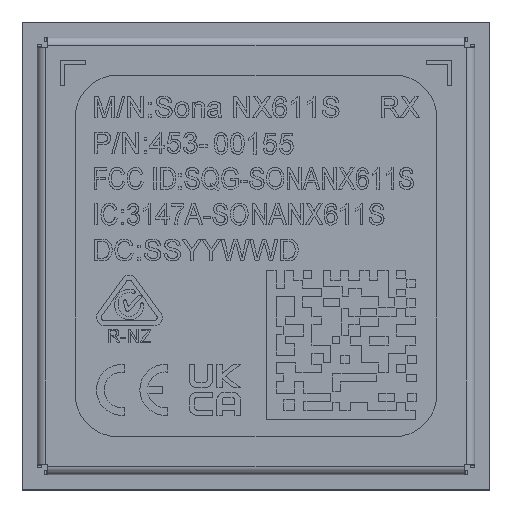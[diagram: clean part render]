
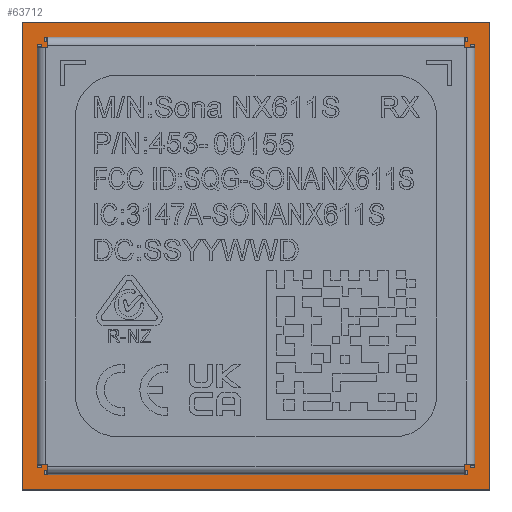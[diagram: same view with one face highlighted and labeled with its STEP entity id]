
A CAD part, top view. The second image highlights one B-rep face of the part: STEP entity #63712.
In plain terms, the highlighted planar face has unit normal (0, 0, 1).
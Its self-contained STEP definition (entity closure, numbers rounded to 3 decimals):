
#2934 = DIRECTION ( 'NONE',  ( 0., -1., 0. ) ) ;
#6314 = ORIENTED_EDGE ( 'NONE', *, *, #15972, .F. ) ;
#6895 = EDGE_CURVE ( 'NONE', #184394, #110611, #103846, .T. ) ;
#12666 = ORIENTED_EDGE ( 'NONE', *, *, #24684, .F. ) ;
#15972 = EDGE_CURVE ( 'NONE', #38693, #55471, #166091, .T. ) ;
#22496 = CARTESIAN_POINT ( 'NONE',  ( -5.5, -5.5, 0. ) ) ;
#24684 = EDGE_CURVE ( 'NONE', #110611, #38693, #60949, .T. ) ;
#26373 = ORIENTED_EDGE ( 'NONE', *, *, #98845, .F. ) ;
#31379 = DIRECTION ( 'NONE',  ( -1., 0., 0. ) ) ;
#38693 = VERTEX_POINT ( 'NONE', #171754 ) ;
#39058 = CARTESIAN_POINT ( 'NONE',  ( 0., 0., 0. ) ) ;
#44296 = CARTESIAN_POINT ( 'NONE',  ( -5.5, -5.5, 0. ) ) ;
#47153 = CARTESIAN_POINT ( 'NONE',  ( 5.5, 5.5, 0. ) ) ;
#55471 = VERTEX_POINT ( 'NONE', #124344 ) ;
#60949 = LINE ( 'NONE', #163732, #152836 ) ;
#63712 = ADVANCED_FACE ( 'NONE', ( #123624 ), #111189, .F. ) ;
#85270 = CARTESIAN_POINT ( 'NONE',  ( -5.5, 5.5, 0. ) ) ;
#86415 = AXIS2_PLACEMENT_3D ( 'NONE', #39058, #126489, #97712 ) ;
#97712 = DIRECTION ( 'NONE',  ( 0., -1., 0. ) ) ;
#98845 = EDGE_CURVE ( 'NONE', #55471, #184394, #136017, .T. ) ;
#103346 = VECTOR ( 'NONE', #31379, 1000. ) ;
#103846 = LINE ( 'NONE', #44296, #107994 ) ;
#107994 = VECTOR ( 'NONE', #163242, 1000. ) ;
#110611 = VERTEX_POINT ( 'NONE', #85270 ) ;
#111189 = PLANE ( 'NONE',  #86415 ) ;
#123624 = FACE_OUTER_BOUND ( 'NONE', #160016, .T. ) ;
#124344 = CARTESIAN_POINT ( 'NONE',  ( 5.5, -5.5, 0. ) ) ;
#125672 = VECTOR ( 'NONE', #2934, 1000. ) ;
#126489 = DIRECTION ( 'NONE',  ( 0., 0., -1. ) ) ;
#136017 = LINE ( 'NONE', #149412, #103346 ) ;
#139239 = ORIENTED_EDGE ( 'NONE', *, *, #6895, .F. ) ;
#149412 = CARTESIAN_POINT ( 'NONE',  ( 5.5, -5.5, 0. ) ) ;
#152836 = VECTOR ( 'NONE', #164663, 1000. ) ;
#160016 = EDGE_LOOP ( 'NONE', ( #26373, #6314, #12666, #139239 ) ) ;
#163242 = DIRECTION ( 'NONE',  ( 0., 1., 0. ) ) ;
#163732 = CARTESIAN_POINT ( 'NONE',  ( -5.5, 5.5, 0. ) ) ;
#164663 = DIRECTION ( 'NONE',  ( 1., 0., 0. ) ) ;
#166091 = LINE ( 'NONE', #47153, #125672 ) ;
#171754 = CARTESIAN_POINT ( 'NONE',  ( 5.5, 5.5, 0. ) ) ;
#184394 = VERTEX_POINT ( 'NONE', #22496 ) ;
